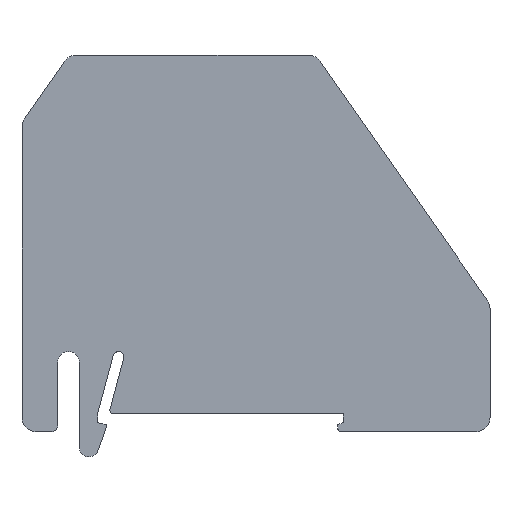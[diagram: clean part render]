
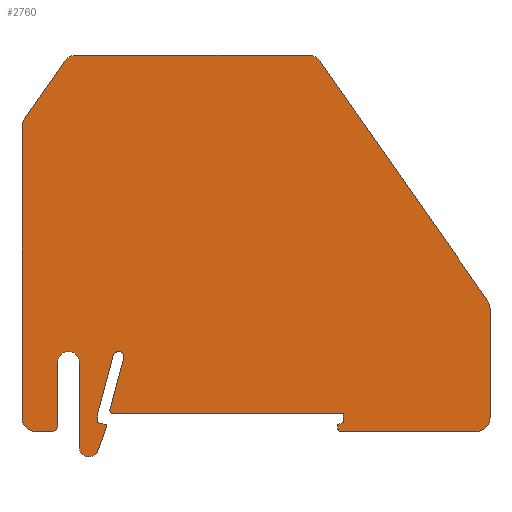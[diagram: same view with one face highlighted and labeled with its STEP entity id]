
A CAD part, top view. The second image highlights one B-rep face of the part: STEP entity #2760.
In plain terms, the highlighted planar face has unit normal (0, 0, 1) as drawn and (0, 0, -1) by its records, which use the part's own axes.
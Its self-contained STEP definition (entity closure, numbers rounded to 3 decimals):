
#10=CARTESIAN_POINT('',(0.,0.,0.));
#20=DIRECTION('',(0.,0.,1.));
#30=DIRECTION('',(1.,0.,0.));
#40=AXIS2_PLACEMENT_3D('',#10,#20,#30);
#50=PLANE('',#40);
#60=CARTESIAN_POINT('',(-29.847,50.719,0.));
#70=DIRECTION('',(-0.574,-0.819,0.));
#80=VECTOR('',#70,1.);
#90=LINE('',#60,#80);
#100=CARTESIAN_POINT('',(-29.847,50.719,0.));
#110=VERTEX_POINT('',#100);
#120=CARTESIAN_POINT('',(-53.188,17.384,0.));
#130=VERTEX_POINT('',#120);
#140=EDGE_CURVE('',#110,#130,#90,.T.);
#150=ORIENTED_EDGE('',*,*,#140,.F.);
#160=CARTESIAN_POINT('',(-51.55,16.237,0.));
#170=DIRECTION('',(0.,0.,1.));
#180=DIRECTION('',(1.,0.,0.));
#190=AXIS2_PLACEMENT_3D('',#160,#170,#180);
#200=CIRCLE('',#190,2.);
#210=CARTESIAN_POINT('',(-53.55,16.237,0.));
#220=VERTEX_POINT('',#210);
#230=EDGE_CURVE('',#130,#220,#200,.T.);
#240=ORIENTED_EDGE('',*,*,#230,.F.);
#250=CARTESIAN_POINT('',(-53.55,16.237,0.));
#260=DIRECTION('',(0.,-1.,0.));
#270=VECTOR('',#260,1.);
#280=LINE('',#250,#270);
#290=CARTESIAN_POINT('',(-53.55,1.022,0.));
#300=VERTEX_POINT('',#290);
#310=EDGE_CURVE('',#220,#300,#280,.T.);
#320=ORIENTED_EDGE('',*,*,#310,.F.);
#330=CARTESIAN_POINT('',(-51.55,1.022,0.));
#340=DIRECTION('',(0.,0.,1.));
#350=DIRECTION('',(1.,0.,0.));
#360=AXIS2_PLACEMENT_3D('',#330,#340,#350);
#370=CIRCLE('',#360,2.);
#380=CARTESIAN_POINT('',(-51.55,-0.978,0.));
#390=VERTEX_POINT('',#380);
#400=EDGE_CURVE('',#300,#390,#370,.T.);
#410=ORIENTED_EDGE('',*,*,#400,.F.);
#420=CARTESIAN_POINT('',(-51.55,-0.978,0.));
#430=DIRECTION('',(1.,0.,0.));
#440=VECTOR('',#430,1.);
#450=LINE('',#420,#440);
#460=CARTESIAN_POINT('',(-32.8,-0.978,0.));
#470=VERTEX_POINT('',#460);
#480=EDGE_CURVE('',#390,#470,#450,.T.);
#490=ORIENTED_EDGE('',*,*,#480,.F.);
#500=CARTESIAN_POINT('',(-32.8,-0.478,0.));
#510=DIRECTION('',(0.,0.,1.));
#520=DIRECTION('',(1.,0.,0.));
#530=AXIS2_PLACEMENT_3D('',#500,#510,#520);
#540=CIRCLE('',#530,0.5);
#550=CARTESIAN_POINT('',(-32.3,-0.478,0.));
#560=VERTEX_POINT('',#550);
#570=EDGE_CURVE('',#470,#560,#540,.T.);
#580=ORIENTED_EDGE('',*,*,#570,.F.);
#590=CARTESIAN_POINT('',(-32.3,-0.478,0.));
#600=DIRECTION('',(0.,1.,0.));
#610=VECTOR('',#600,1.);
#620=LINE('',#590,#610);
#630=CARTESIAN_POINT('',(-32.3,0.03,0.));
#640=VERTEX_POINT('',#630);
#650=EDGE_CURVE('',#560,#640,#620,.T.);
#660=ORIENTED_EDGE('',*,*,#650,.F.);
#670=CARTESIAN_POINT('',(-32.3,0.03,0.));
#680=DIRECTION('',(-0.94,0.342,0.));
#690=VECTOR('',#680,1.);
#700=LINE('',#670,#690);
#710=CARTESIAN_POINT('',(-33.1,0.322,0.));
#720=VERTEX_POINT('',#710);
#730=EDGE_CURVE('',#640,#720,#700,.T.);
#740=ORIENTED_EDGE('',*,*,#730,.F.);
#750=CARTESIAN_POINT('',(-33.1,0.322,0.));
#760=DIRECTION('',(0.,1.,0.));
#770=VECTOR('',#760,1.);
#780=LINE('',#750,#770);
#790=CARTESIAN_POINT('',(-33.1,1.522,0.));
#800=VERTEX_POINT('',#790);
#810=EDGE_CURVE('',#720,#800,#780,.T.);
#820=ORIENTED_EDGE('',*,*,#810,.F.);
#830=CARTESIAN_POINT('',(-33.1,1.522,0.));
#840=DIRECTION('',(1.,0.,0.));
#850=VECTOR('',#840,1.);
#860=LINE('',#830,#850);
#870=CARTESIAN_POINT('',(-1.002,1.522,0.));
#880=VERTEX_POINT('',#870);
#890=EDGE_CURVE('',#800,#880,#860,.T.);
#900=ORIENTED_EDGE('',*,*,#890,.F.);
#910=CARTESIAN_POINT('',(-1.002,2.022,0.));
#920=DIRECTION('',(0.,0.,1.));
#930=DIRECTION('',(1.,0.,0.));
#940=AXIS2_PLACEMENT_3D('',#910,#920,#930);
#950=CIRCLE('',#940,0.5);
#960=CARTESIAN_POINT('',(-0.502,2.022,0.));
#970=VERTEX_POINT('',#960);
#980=EDGE_CURVE('',#880,#970,#950,.T.);
#990=ORIENTED_EDGE('',*,*,#980,.F.);
#1000=CARTESIAN_POINT('',(-0.519,2.151,0.));
#1010=VERTEX_POINT('',#1000);
#1020=EDGE_CURVE('',#970,#1010,#950,.T.);
#1030=ORIENTED_EDGE('',*,*,#1020,.F.);
#1040=CARTESIAN_POINT('',(-2.429,9.279,0.));
#1050=DIRECTION('',(0.259,-0.966,0.));
#1060=VECTOR('',#1050,1.);
#1070=LINE('',#1040,#1060);
#1080=CARTESIAN_POINT('',(-2.429,9.279,0.));
#1090=VERTEX_POINT('',#1080);
#1100=EDGE_CURVE('',#1090,#1010,#1070,.T.);
#1110=ORIENTED_EDGE('',*,*,#1100,.T.);
#1120=CARTESIAN_POINT('',(-1.706,9.473,0.));
#1130=DIRECTION('',(0.,0.,1.));
#1140=DIRECTION('',(1.,0.,0.));
#1150=AXIS2_PLACEMENT_3D('',#1120,#1130,#1140);
#1160=CIRCLE('',#1150,0.749);
#1170=CARTESIAN_POINT('',(-2.454,9.473,0.));
#1180=VERTEX_POINT('',#1170);
#1190=EDGE_CURVE('',#1180,#1090,#1160,.T.);
#1200=ORIENTED_EDGE('',*,*,#1190,.T.);
#1210=CARTESIAN_POINT('',(-0.982,9.667,0.));
#1220=VERTEX_POINT('',#1210);
#1230=EDGE_CURVE('',#1220,#1180,#1160,.T.);
#1240=ORIENTED_EDGE('',*,*,#1230,.T.);
#1250=CARTESIAN_POINT('',(1.2,1.522,0.));
#1260=DIRECTION('',(-0.259,0.966,0.));
#1270=VECTOR('',#1260,1.);
#1280=LINE('',#1250,#1270);
#1290=CARTESIAN_POINT('',(1.2,1.522,0.));
#1300=VERTEX_POINT('',#1290);
#1310=EDGE_CURVE('',#1300,#1220,#1280,.T.);
#1320=ORIENTED_EDGE('',*,*,#1310,.T.);
#1330=CARTESIAN_POINT('',(1.2,1.522,0.));
#1340=DIRECTION('',(0.,-1.,0.));
#1350=VECTOR('',#1340,1.);
#1360=LINE('',#1330,#1350);
#1370=CARTESIAN_POINT('',(1.2,0.322,0.));
#1380=VERTEX_POINT('',#1370);
#1390=EDGE_CURVE('',#1300,#1380,#1360,.T.);
#1400=ORIENTED_EDGE('',*,*,#1390,.F.);
#1410=CARTESIAN_POINT('',(1.2,0.322,0.));
#1420=DIRECTION('',(-0.966,-0.259,0.));
#1430=VECTOR('',#1420,1.);
#1440=LINE('',#1410,#1430);
#1450=CARTESIAN_POINT('',(0.,0.,0.))
;
#1460=VERTEX_POINT('',#1450);
#1470=EDGE_CURVE('',#1380,#1460,#1440,.T.);
#1480=ORIENTED_EDGE('',*,*,#1470,.F.);
#1490=CARTESIAN_POINT('',(0.,0.,0.))
;
#1500=DIRECTION('',(0.,-1.,0.));
#1510=VECTOR('',#1500,1.);
#1520=LINE('',#1490,#1510);
#1530=CARTESIAN_POINT('',(0.,-0.428,0.));
#1540=VERTEX_POINT('',#1530);
#1550=EDGE_CURVE('',#1460,#1540,#1520,.T.);
#1560=ORIENTED_EDGE('',*,*,#1550,.F.);
#1570=CARTESIAN_POINT('',(1.154,-3.598,0.));
#1580=DIRECTION('',(-0.342,0.94,0.));
#1590=VECTOR('',#1580,1.);
#1600=LINE('',#1570,#1590);
#1610=CARTESIAN_POINT('',(1.154,-3.598,0.));
#1620=VERTEX_POINT('',#1610);
#1630=EDGE_CURVE('',#1620,#1540,#1600,.T.);
#1640=ORIENTED_EDGE('',*,*,#1630,.T.);
#1650=CARTESIAN_POINT('',(2.411,-3.14,0.));
#1660=DIRECTION('',(0.,0.,1.));
#1670=DIRECTION('',(1.,0.,0.));
#1680=AXIS2_PLACEMENT_3D('',#1650,#1660,#1670);
#1690=CIRCLE('',#1680,1.339);
#1700=CARTESIAN_POINT('',(3.75,-3.14,0.));
#1710=VERTEX_POINT('',#1700);
#1720=EDGE_CURVE('',#1620,#1710,#1690,.T.);
#1730=ORIENTED_EDGE('',*,*,#1720,.F.);
#1740=CARTESIAN_POINT('',(3.75,8.722,0.));
#1750=DIRECTION('',(0.,-1.,0.));
#1760=VECTOR('',#1750,1.);
#1770=LINE('',#1740,#1760);
#1780=CARTESIAN_POINT('',(3.75,8.722,0.));
#1790=VERTEX_POINT('',#1780);
#1800=EDGE_CURVE('',#1790,#1710,#1770,.T.);
#1810=ORIENTED_EDGE('',*,*,#1800,.T.);
#1820=CARTESIAN_POINT('',(5.25,8.722,0.));
#1830=DIRECTION('',(0.,0.,1.));
#1840=DIRECTION('',(1.,0.,0.));
#1850=AXIS2_PLACEMENT_3D('',#1820,#1830,#1840);
#1860=CIRCLE('',#1850,1.5);
#1870=CARTESIAN_POINT('',(6.75,8.722,0.));
#1880=VERTEX_POINT('',#1870);
#1890=EDGE_CURVE('',#1880,#1790,#1860,.T.);
#1900=ORIENTED_EDGE('',*,*,#1890,.T.);
#1910=CARTESIAN_POINT('',(6.75,0.022,0.));
#1920=DIRECTION('',(0.,1.,0.));
#1930=VECTOR('',#1920,1.);
#1940=LINE('',#1910,#1930);
#1950=CARTESIAN_POINT('',(6.75,0.022,0.));
#1960=VERTEX_POINT('',#1950);
#1970=EDGE_CURVE('',#1960,#1880,#1940,.T.);
#1980=ORIENTED_EDGE('',*,*,#1970,.T.);
#1990=CARTESIAN_POINT('',(7.75,0.022,0.));
#2000=DIRECTION('',(0.,0.,1.));
#2010=DIRECTION('',(1.,0.,0.));
#2020=AXIS2_PLACEMENT_3D('',#1990,#2000,#2010);
#2030=CIRCLE('',#2020,1.);
#2040=CARTESIAN_POINT('',(7.75,-0.978,0.));
#2050=VERTEX_POINT('',#2040);
#2060=EDGE_CURVE('',#1960,#2050,#2030,.T.);
#2070=ORIENTED_EDGE('',*,*,#2060,.F.);
#2080=CARTESIAN_POINT('',(7.75,-0.978,0.));
#2090=DIRECTION('',(1.,0.,0.));
#2100=VECTOR('',#2090,1.);
#2110=LINE('',#2080,#2100);
#2120=CARTESIAN_POINT('',(9.75,-0.978,0.));
#2130=VERTEX_POINT('',#2120);
#2140=EDGE_CURVE('',#2050,#2130,#2110,.T.);
#2150=ORIENTED_EDGE('',*,*,#2140,.F.);
#2160=CARTESIAN_POINT('',(9.75,1.022,0.));
#2170=DIRECTION('',(0.,0.,1.));
#2180=DIRECTION('',(1.,0.,0.));
#2190=AXIS2_PLACEMENT_3D('',#2160,#2170,#2180);
#2200=CIRCLE('',#2190,2.);
#2210=CARTESIAN_POINT('',(11.75,1.022,0.));
#2220=VERTEX_POINT('',#2210);
#2230=EDGE_CURVE('',#2130,#2220,#2200,.T.);
#2240=ORIENTED_EDGE('',*,*,#2230,.F.);
#2250=CARTESIAN_POINT('',(11.75,1.022,0.));
#2260=DIRECTION('',(0.,1.,0.));
#2270=VECTOR('',#2260,1.);
#2280=LINE('',#2250,#2270);
#2290=CARTESIAN_POINT('',(11.75,41.587,0.));
#2300=VERTEX_POINT('',#2290);
#2310=EDGE_CURVE('',#2220,#2300,#2280,.T.);
#2320=ORIENTED_EDGE('',*,*,#2310,.F.);
#2330=CARTESIAN_POINT('',(9.75,41.587,0.));
#2340=DIRECTION('',(0.,0.,1.));
#2350=DIRECTION('',(1.,0.,0.));
#2360=AXIS2_PLACEMENT_3D('',#2330,#2340,#2350);
#2370=CIRCLE('',#2360,2.);
#2380=CARTESIAN_POINT('',(11.388,42.734,0.));
#2390=VERTEX_POINT('',#2380);
#2400=EDGE_CURVE('',#2300,#2390,#2370,.T.);
#2410=ORIENTED_EDGE('',*,*,#2400,.F.);
#2420=CARTESIAN_POINT('',(11.388,42.734,0.));
#2430=DIRECTION('',(-0.574,0.819,0.));
#2440=VECTOR('',#2430,1.);
#2450=LINE('',#2420,#2440);
#2460=CARTESIAN_POINT('',(5.797,50.719,0.));
#2470=VERTEX_POINT('',#2460);
#2480=EDGE_CURVE('',#2390,#2470,#2450,.T.);
#2490=ORIENTED_EDGE('',*,*,#2480,.F.);
#2500=CARTESIAN_POINT('',(4.159,49.572,0.));
#2510=DIRECTION('',(0.,0.,1.));
#2520=DIRECTION('',(1.,0.,0.));
#2530=AXIS2_PLACEMENT_3D('',#2500,#2510,#2520);
#2540=CIRCLE('',#2530,2.);
#2550=CARTESIAN_POINT('',(4.159,51.572,0.));
#2560=VERTEX_POINT('',#2550);
#2570=EDGE_CURVE('',#2470,#2560,#2540,.T.);
#2580=ORIENTED_EDGE('',*,*,#2570,.F.);
#2590=CARTESIAN_POINT('',(4.159,51.572,0.));
#2600=DIRECTION('',(-1.,0.,0.));
#2610=VECTOR('',#2600,1.);
#2620=LINE('',#2590,#2610);
#2630=CARTESIAN_POINT('',(-28.209,51.572,0.));
#2640=VERTEX_POINT('',#2630);
#2650=EDGE_CURVE('',#2560,#2640,#2620,.T.);
#2660=ORIENTED_EDGE('',*,*,#2650,.F.);
#2670=CARTESIAN_POINT('',(-28.209,49.572,0.));
#2680=DIRECTION('',(0.,0.,1.));
#2690=DIRECTION('',(1.,0.,0.));
#2700=AXIS2_PLACEMENT_3D('',#2670,#2680,#2690);
#2710=CIRCLE('',#2700,2.);
#2720=EDGE_CURVE('',#2640,#110,#2710,.T.);
#2730=ORIENTED_EDGE('',*,*,#2720,.F.);
#2740=EDGE_LOOP('',(#2730,#2660,#2580,#2490,#2410,#2320,#2240,#2150,
#2070,#1980,#1900,#1810,#1730,#1640,#1560,#1480,#1400,#1320,#1240,#1200,
#1110,#1030,#990,#900,#820,#740,#660,#580,#490,#410,#320,#240,#150));
#2750=FACE_OUTER_BOUND('',#2740,.T.);
#2760=ADVANCED_FACE('',(#2750),#50,.F.);
